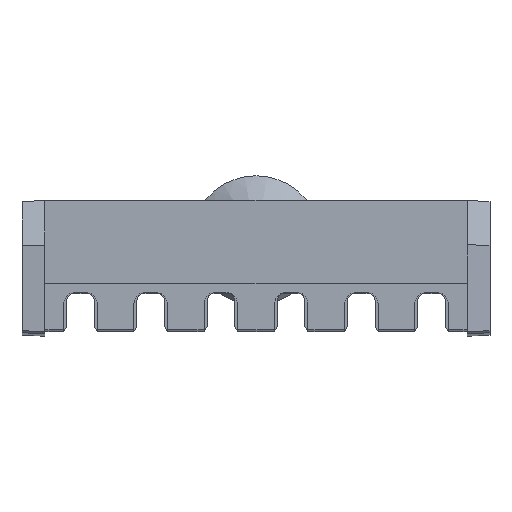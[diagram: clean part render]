
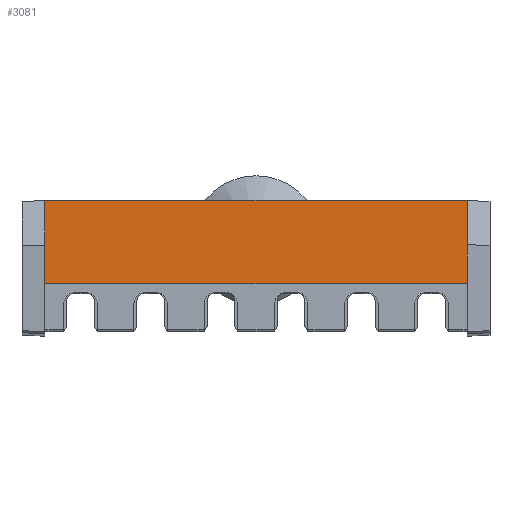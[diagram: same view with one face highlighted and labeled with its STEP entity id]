
A CAD part, top view. The second image highlights one B-rep face of the part: STEP entity #3081.
In plain terms, the highlighted planar face has unit normal (0, 0, 1).
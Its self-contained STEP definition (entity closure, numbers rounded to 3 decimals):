
#3081=ADVANCED_FACE('',(#3696),#3466,.T.);
#3466=PLANE('',#11481);
#3696=FACE_OUTER_BOUND('',#4081,.T.);
#4081=EDGE_LOOP('',(#5119,#5120,#5121,#5122));
#5119=ORIENTED_EDGE('',*,*,#8754,.F.);
#5120=ORIENTED_EDGE('',*,*,#8755,.F.);
#5121=ORIENTED_EDGE('',*,*,#8756,.T.);
#5122=ORIENTED_EDGE('',*,*,#8757,.T.);
#7811=VERTEX_POINT('',#13807);
#7812=VERTEX_POINT('',#13808);
#7813=VERTEX_POINT('',#13810);
#7814=VERTEX_POINT('',#13812);
#8754=EDGE_CURVE('',#7811,#7812,#10027,.T.);
#8755=EDGE_CURVE('',#7813,#7811,#10028,.T.);
#8756=EDGE_CURVE('',#7813,#7814,#10029,.T.);
#8757=EDGE_CURVE('',#7814,#7812,#10030,.T.);
#10027=LINE('',#13806,#10781);
#10028=LINE('',#13809,#10782);
#10029=LINE('',#13811,#10783);
#10030=LINE('',#13813,#10784);
#10781=VECTOR('',#11967,1.);
#10782=VECTOR('',#11968,1.);
#10783=VECTOR('',#11969,1.);
#10784=VECTOR('',#11970,1.);
#11481=AXIS2_PLACEMENT_3D('',#13814,#11971,#11972);
#11967=DIRECTION('',(0.,1.,0.));
#11968=DIRECTION('',(-1.,0.,0.));
#11969=DIRECTION('',(0.,1.,0.));
#11970=DIRECTION('',(-1.,0.,0.));
#11971=DIRECTION('',(0.,0.,1.));
#11972=DIRECTION('',(1.,0.,0.));
#13806=CARTESIAN_POINT('',(-15.25,11.75,5.797));
#13807=CARTESIAN_POINT('',(-15.25,11.75,5.797));
#13808=CARTESIAN_POINT('',(-15.25,47.25,5.797));
#13809=CARTESIAN_POINT('',(172.75,11.75,5.797));
#13810=CARTESIAN_POINT('',(165.25,11.75,5.797));
#13811=CARTESIAN_POINT('',(165.25,11.75,5.797));
#13812=CARTESIAN_POINT('',(165.25,47.25,5.797));
#13813=CARTESIAN_POINT('',(172.75,47.25,5.797));
#13814=CARTESIAN_POINT('',(172.75,11.75,5.797));
